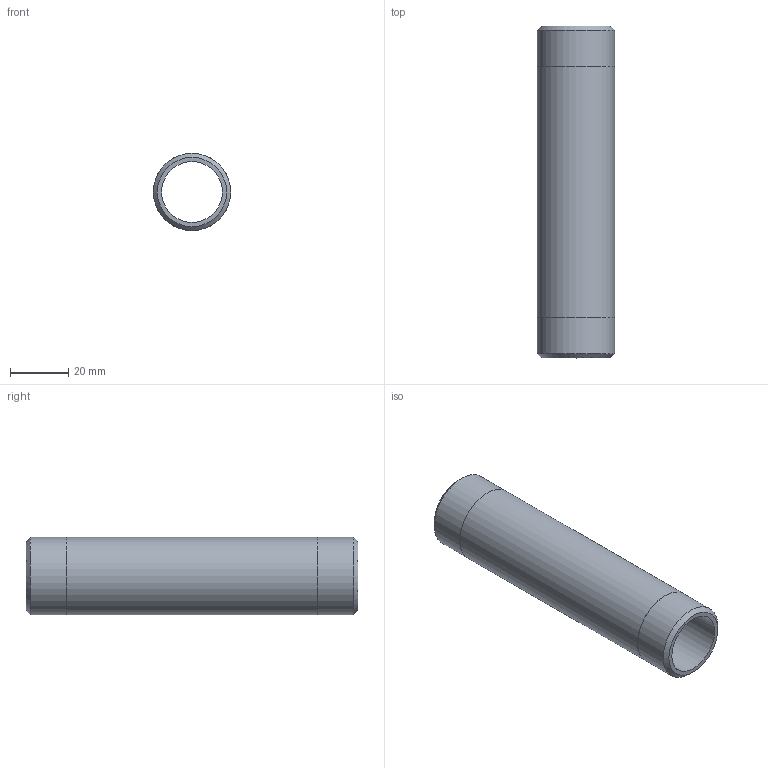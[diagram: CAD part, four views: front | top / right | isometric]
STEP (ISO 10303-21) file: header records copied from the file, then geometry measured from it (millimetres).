
FILE_DESCRIPTION(/* description */ (''),/* implementation_level */ '2;1');
FILE_NAME(/* name */ 'C:/Users/drich/Desktop/BPN34-4-1_2 v1.step',/* time_stamp */ '2020-01-03T15:17:46-06:00',/* author */ (''),/* organization */ (''),/* preprocessor_version */ 'ST-DEVELOPER v18',/* originating_system */ 'Autodesk Translation Framework v8.12.0.6',/* authorisation */ '');
FILE_SCHEMA (('AUTOMOTIVE_DESIGN { 1 0 10303 214 3 1 1 }'));
Length unit declared in the file: inch
Products named in the file (1): BPN34-4-1_2
Bounding box: 26.67 x 114.3 x 26.67 mm (x, y, z)
Volume: 24312.7 mm3; surface area: 17375.1 mm2
Topology: 1 solids, 1 shells, 10 faces, 24 edges, 18 vertices
Faces by surface type: cylinder 4, plane 4, cone 2
Full cylindrical faces by diameter (mm): 20.93 x1, 26.619 x2, 26.67 x1
Entity records: 360 total; most frequent: DIRECTION 64, CARTESIAN_POINT 53, ORIENTED_EDGE 48, AXIS2_PLACEMENT_3D 29, EDGE_CURVE 24, CIRCLE 18, VERTEX_POINT 18, EDGE_LOOP 14
